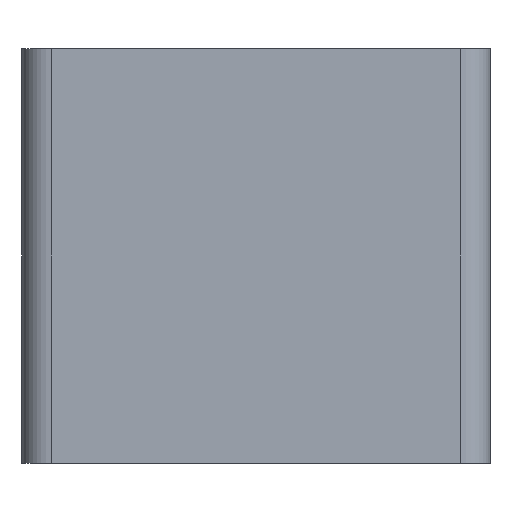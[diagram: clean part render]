
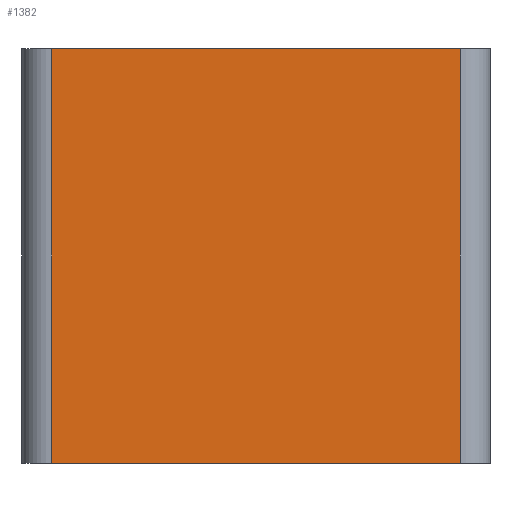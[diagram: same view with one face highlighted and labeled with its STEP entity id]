
A CAD part, left-side view. The second image highlights one B-rep face of the part: STEP entity #1382.
In plain terms, the highlighted planar face has unit normal (-1, 0, 0).
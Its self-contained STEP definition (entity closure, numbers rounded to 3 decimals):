
#28=DIRECTION('',(0.,-1.,0.));
#29=VECTOR('',#28,69.);
#30=CARTESIAN_POINT('',(-87.,-3.,-35.));
#31=LINE('',#30,#29);
#402=DIRECTION('',(0.,-1.,0.));
#403=VECTOR('',#402,69.);
#404=CARTESIAN_POINT('',(-87.,-3.,35.));
#405=LINE('',#404,#403);
#537=DIRECTION('',(0.,0.,1.));
#538=VECTOR('',#537,70.);
#539=CARTESIAN_POINT('',(-87.,-72.,-35.));
#540=LINE('',#539,#538);
#541=DIRECTION('',(0.,0.,1.));
#542=VECTOR('',#541,70.);
#543=CARTESIAN_POINT('',(-87.,-3.,-35.));
#544=LINE('',#543,#542);
#621=CARTESIAN_POINT('',(-87.,-3.,-35.));
#622=VERTEX_POINT('',#621);
#623=CARTESIAN_POINT('',(-87.,-72.,-35.));
#624=VERTEX_POINT('',#623);
#653=CARTESIAN_POINT('',(-87.,-3.,35.));
#654=VERTEX_POINT('',#653);
#655=CARTESIAN_POINT('',(-87.,-72.,35.));
#656=VERTEX_POINT('',#655);
#1370=CARTESIAN_POINT('',(-87.,-3.,-35.));
#1371=DIRECTION('',(-1.,0.,0.));
#1372=DIRECTION('',(0.,-1.,0.));
#1373=AXIS2_PLACEMENT_3D('',#1370,#1371,#1372);
#1374=PLANE('',#1373);
#1375=ORIENTED_EDGE('',*,*,#798,.F.);
#1377=ORIENTED_EDGE('',*,*,#1376,.T.);
#1378=ORIENTED_EDGE('',*,*,#1208,.T.);
#1379=ORIENTED_EDGE('',*,*,#1363,.F.);
#1380=EDGE_LOOP('',(#1375,#1377,#1378,#1379));
#1381=FACE_OUTER_BOUND('',#1380,.F.);
#1382=ADVANCED_FACE('',(#1381),#1374,.T.);
#798=EDGE_CURVE('',#622,#624,#31,.T.);
#1208=EDGE_CURVE('',#654,#656,#405,.T.);
#1363=EDGE_CURVE('',#624,#656,#540,.T.);
#1376=EDGE_CURVE('',#622,#654,#544,.T.);
